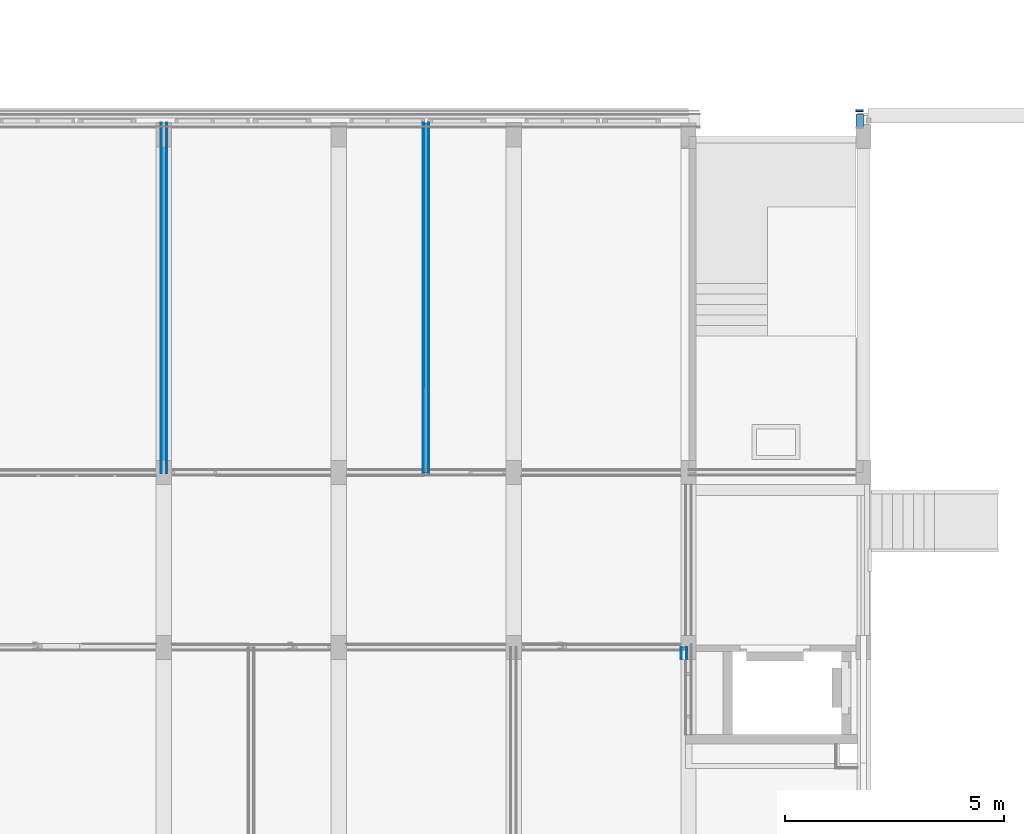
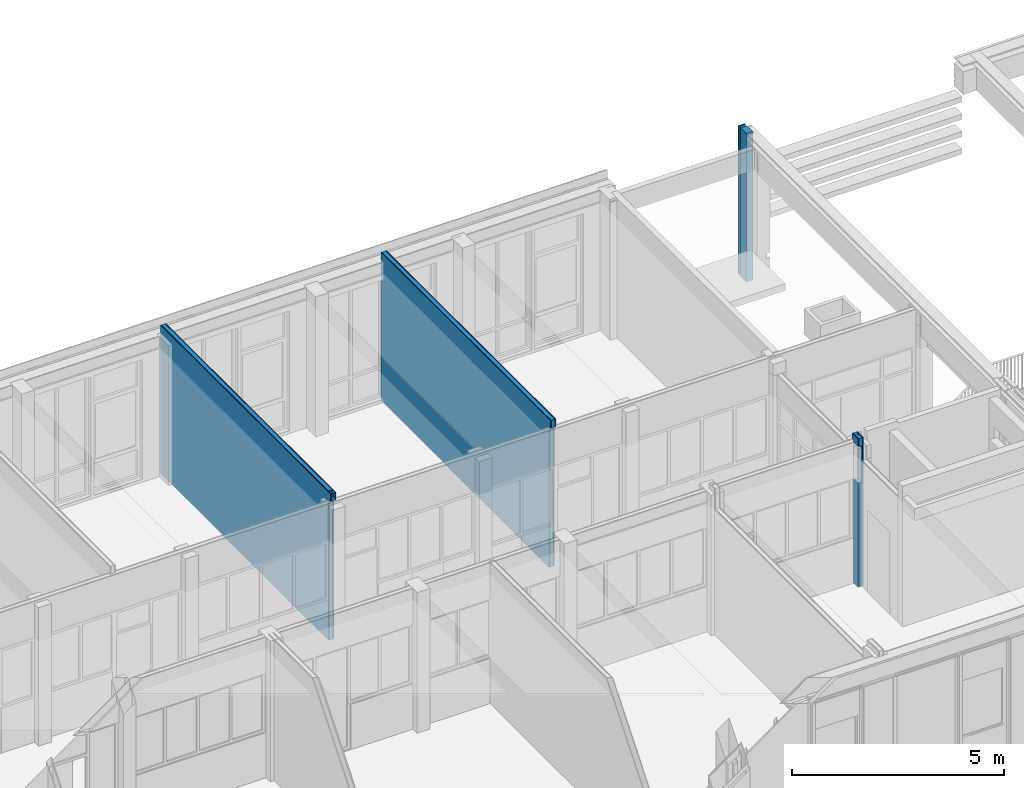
# One storey, part 26 of 54: 17 building element parts, 4 elements without a shape of their own.
"""IFC2X3 building model written with IfcOpenShell, lengths in millimetres."""

from ifc_helpers import new_model, entity, si_unit, converted_unit, derived_unit, money_unit, direction, frame, origin_with_axes, place, context, subcontext, project, spatial, faceted_brep, material, type_object, element, aggregate, save


model = new_model("IFC2X3")

# Units and contexts
model_context = context("Model", 3, precision=0.01, world=origin_with_axes(), true_north=direction((0.0, 1.0)))
body_context = subcontext(model_context, "Body", "Model", "MODEL_VIEW")
ifc_project = project(units=[si_unit("LENGTHUNIT", "METRE", prefix="MILLI"), si_unit("AREAUNIT", "SQUARE_METRE"), si_unit("VOLUMEUNIT", "CUBIC_METRE"), converted_unit("PLANEANGLEUNIT", "DEGREE", entity("IfcPlaneAngleMeasure", 0.0174532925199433), si_unit("PLANEANGLEUNIT", "RADIAN"), dimensions=[0, 0, 0, 0, 0, 0, 0]), money_unit("EUR"), converted_unit("TIMEUNIT", "Year", entity("IfcTimeMeasure", 31557600.0), si_unit("TIMEUNIT", "SECOND"), dimensions=[0, 0, 1, 0, 0, 0, 0]), si_unit("MASSUNIT", "GRAM", prefix="KILO"), si_unit("THERMODYNAMICTEMPERATUREUNIT", "DEGREE_CELSIUS"), si_unit("LUMINOUSINTENSITYUNIT", "LUMEN"), si_unit("ENERGYUNIT", "JOULE", prefix="MEGA"), derived_unit("THERMALCONDUCTANCEUNIT", [(si_unit("POWERUNIT", "WATT"), 1), (si_unit("LENGTHUNIT", "METRE"), -1), (si_unit("THERMODYNAMICTEMPERATUREUNIT", "KELVIN"), -1)]), derived_unit("SPECIFICHEATCAPACITYUNIT", [(si_unit("ENERGYUNIT", "JOULE"), 1), (si_unit("MASSUNIT", "GRAM", prefix="KILO"), -1), (si_unit("THERMODYNAMICTEMPERATUREUNIT", "KELVIN"), -1)]), derived_unit("MASSDENSITYUNIT", [(si_unit("MASSUNIT", "GRAM", prefix="KILO"), 1), (si_unit("VOLUMEUNIT", "CUBIC_METRE"), -1)])], contexts=[model_context])

# Site, building, storey
site_placement = place(None, origin_with_axes())
site = spatial("IfcSite", under=ifc_project, at=site_placement, Name="<site naam>", CompositionType="ELEMENT")
building_placement = place(site_placement, origin_with_axes())
building = spatial("IfcBuilding", under=site, at=building_placement, Name="<Naam gebouw>", CompositionType="ELEMENT")
storey_placement = place(building_placement, frame((0.0, 0.0, 8500.0), z_axis=(0.0, 0.0, 1.0), x_axis=(1.0, 0.0, 0.0)))
storey = spatial("IfcBuildingStorey", under=building, at=storey_placement, Name="02 2e verdieping", CompositionType="ELEMENT", Elevation=8500.0)

# Wall, building element parts
wall_type_1 = type_object("IfcWallType", Name="MS-01 GF 150 ECO DGS/2.100.2.A 150", PredefinedType="NOTDEFINED")
wall_1_placement = place(storey_placement, frame((35999.99713003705, 20000.00000000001, 0.0), z_axis=(0.0, 0.0, 1.0), x_axis=(5.218114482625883e-06, -0.9999999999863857, 0.0)))
wall_1 = element("IfcWall", 1, at=wall_1_placement, inside=storey, type_object=wall_type_1, Name="22_Binnenwand_MS-01")
ifc_material_1 = material(Name="gipsplaat")
building_element_part_1_placement = place(wall_1_placement, origin_with_axes())
building_element_part_1 = element("IfcBuildingElementPart", 2, at=building_element_part_1_placement, material=ifc_material_1, Name="gipsplaat", context=body_context, shape_type="Brep", body=[
    faceted_brep([(7884.500326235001, 62.5, 4270.0), (7884.500391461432, 75.00000000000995, 4270.0), (0.0, 75.00000000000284, 4270.0), (0.0, 62.5, 4270.0), (7884.500391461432, 75.00000000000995, 4135.38538922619), (7884.500326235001, 62.5, 4135.38538922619), (7900.50039146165, 75.00000000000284, 4135.38538922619), (7900.50039146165, 75.00000000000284, 4270.0), (8009.999969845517, 75.00000000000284, 4270.0), (8009.999969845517, 75.00000000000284, 4049.999999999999), (7925.000391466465, 75.00000000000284, 4049.999999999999), (7925.000391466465, 75.00000000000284, 0.0), (0.0, 75.00000000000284, 0.0), (0.0, 62.5, 0.0), (7925.000326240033, 62.49999999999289, 0.0), (7925.000326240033, 62.49999999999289, 4049.999999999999), (8009.999969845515, 62.49999999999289, 4049.999999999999), (8009.999969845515, 62.49999999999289, 4270.0), (7900.500326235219, 62.49999999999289, 4270.0), (7900.500326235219, 62.49999999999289, 4135.38538922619)], [[[0, 1, 2, 3]], [[4, 1, 0, 5]], [[6, 7, 8, 9, 10, 11, 12, 2, 1, 4]], [[12, 13, 3, 2]], [[5, 0, 3, 13, 14, 15, 16, 17, 18, 19]], [[6, 4, 5, 19]], [[18, 7, 6, 19]], [[7, 18, 17, 8]], [[17, 16, 9, 8]], [[15, 10, 9, 16]], [[14, 11, 10, 15]], [[12, 11, 14, 13]]]),
])
ifc_material_2 = material(Name="isolatie_steenwol LSW")
building_element_part_2_placement = place(wall_1_placement, origin_with_axes())
building_element_part_2 = element("IfcBuildingElementPart", 3, at=building_element_part_2_placement, material=ifc_material_2, Name="isolatie_steenwol LSW", context=body_context, shape_type="Brep", body=[
    faceted_brep([(7884.499739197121, -49.99999999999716, 4270.0), (7884.500261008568, 50.00000000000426, 4270.0), (0.0, 50.00000000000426, 4270.0), (0.0, -50.00000000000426, 4270.0), (7884.500261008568, 50.00000000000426, 4135.38538922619), (7884.499739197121, -49.99999999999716, 4135.38538922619), (7900.500261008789, 49.99999999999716, 4135.38538922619), (7900.500261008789, 49.99999999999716, 4270.0), (8009.999969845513, 49.99999999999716, 4270.0), (8009.999969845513, 49.99999999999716, 4049.999999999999), (7925.000261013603, 49.99999999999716, 4049.999999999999), (7925.000261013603, 49.99999999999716, 0.0), (0.0, 50.00000000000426, 0.0), (0.0, -50.00000000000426, 0.0), (7924.999739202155, -50.00000000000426, 0.0), (7924.999739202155, -50.00000000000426, 4049.999999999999), (8009.999969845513, -50.00000000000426, 4049.999999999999), (8009.999969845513, -50.00000000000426, 4270.0), (7900.499739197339, -50.00000000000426, 4270.0), (7900.499739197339, -50.00000000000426, 4135.38538922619), (7900.499975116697, -4.788390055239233, 4135.38538922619), (8009.999969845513, -4.788961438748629, 4135.38538922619), (8009.999969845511, 4.711038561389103, 4135.38538922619), (7900.500024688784, 4.711609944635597, 4135.38538922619), (7900.500024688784, 4.711609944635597, 4270.0), (8009.999969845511, 4.711038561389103, 4270.0), (8009.999969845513, -4.788961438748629, 4270.0), (7900.499975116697, -4.788390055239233, 4270.0)], [[[0, 1, 2, 3]], [[4, 1, 0, 5]], [[6, 7, 8, 9, 10, 11, 12, 2, 1, 4]], [[12, 13, 3, 2]], [[5, 0, 3, 13, 14, 15, 16, 17, 18, 19]], [[6, 4, 5, 19, 20, 21, 22, 23]], [[24, 7, 6, 23]], [[24, 25, 8, 7]], [[21, 26, 17, 16, 9, 8, 25, 22]], [[15, 10, 9, 16]], [[14, 11, 10, 15]], [[12, 11, 14, 13]], [[27, 18, 17, 26]], [[18, 27, 20, 19]], [[27, 26, 21, 20]], [[25, 24, 23, 22]]]),
])
building_element_part_3_placement = place(wall_1_placement, origin_with_axes())
building_element_part_3 = element("IfcBuildingElementPart", 4, at=building_element_part_3_placement, material=ifc_material_1, Name="gipsplaat", context=body_context, shape_type="Brep", body=[
    faceted_brep([(7884.500261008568, 50.00000000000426, 4270.0), (7884.500326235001, 62.5, 4270.0), (0.0, 62.5, 4270.0), (0.0, 50.00000000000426, 4270.0), (7884.500326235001, 62.5, 4135.38538922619), (7884.500261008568, 50.00000000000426, 4135.38538922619), (7900.500326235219, 62.49999999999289, 4135.38538922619), (7900.500326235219, 62.49999999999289, 4270.0), (8009.999969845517, 62.49999999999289, 4270.0), (8009.999969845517, 62.49999999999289, 4049.999999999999), (7925.000326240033, 62.49999999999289, 4049.999999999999), (7925.000326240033, 62.49999999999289, 0.0), (0.0, 62.5, 0.0), (0.0, 50.00000000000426, 0.0), (7925.000261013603, 49.99999999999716, 0.0), (7925.000261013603, 49.99999999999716, 4049.999999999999), (8009.999969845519, 49.99999999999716, 4049.999999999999), (8009.999969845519, 49.99999999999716, 4270.0), (7900.500261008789, 49.99999999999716, 4270.0), (7900.500261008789, 49.99999999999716, 4135.38538922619)], [[[0, 1, 2, 3]], [[4, 1, 0, 5]], [[6, 7, 8, 9, 10, 11, 12, 2, 1, 4]], [[12, 13, 3, 2]], [[5, 0, 3, 13, 14, 15, 16, 17, 18, 19]], [[6, 4, 5, 19]], [[18, 7, 6, 19]], [[7, 18, 17, 8]], [[17, 16, 9, 8]], [[15, 10, 9, 16]], [[14, 11, 10, 15]], [[12, 11, 14, 13]]]),
])
building_element_part_4_placement = place(wall_1_placement, origin_with_axes())
building_element_part_4 = element("IfcBuildingElementPart", 5, at=building_element_part_4_placement, material=ifc_material_1, Name="gipsplaat", context=body_context, shape_type="Brep", body=[
    faceted_brep([(7884.49967397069, -62.49999999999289, 4270.0), (7884.499739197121, -49.99999999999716, 4270.0), (0.0, -50.00000000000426, 4270.0), (0.0, -62.5, 4270.0), (7884.499739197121, -49.99999999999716, 4135.38538922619), (7884.49967397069, -62.49999999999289, 4135.38538922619), (7900.499739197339, -50.00000000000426, 4135.38538922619), (7900.499739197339, -50.00000000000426, 4270.0), (8009.999969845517, -50.00000000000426, 4270.0), (8009.999969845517, -50.00000000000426, 4049.999999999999), (7924.999739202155, -50.00000000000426, 4049.999999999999), (7924.999739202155, -50.00000000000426, 0.0), (0.0, -50.00000000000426, 0.0), (0.0, -62.5, 0.0), (7924.999673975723, -62.5, 0.0), (7924.999673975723, -62.5, 4049.999999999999), (8009.999969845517, -62.5, 4049.999999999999), (8009.999969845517, -62.5, 4270.0), (7900.499673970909, -62.5, 4270.0), (7900.499673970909, -62.5, 4135.38538922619)], [[[0, 1, 2, 3]], [[4, 1, 0, 5]], [[6, 7, 8, 9, 10, 11, 12, 2, 1, 4]], [[12, 13, 3, 2]], [[5, 0, 3, 13, 14, 15, 16, 17, 18, 19]], [[6, 4, 5, 19]], [[18, 7, 6, 19]], [[7, 18, 17, 8]], [[17, 16, 9, 8]], [[15, 10, 9, 16]], [[14, 11, 10, 15]], [[12, 11, 14, 13]]]),
])

wall_2_placement = place(storey_placement, frame((41999.99786433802, 20000.00000000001, 0.0), z_axis=(0.0, 0.0, 1.0), x_axis=(-2.346881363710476e-05, -0.9999999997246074, 0.0)))
wall_2 = element("IfcWall", 6, at=wall_2_placement, inside=storey, type_object=wall_type_1, Name="22_Binnenwand_MS-01")
building_element_part_5_placement = place(wall_2_placement, origin_with_axes())
building_element_part_5 = element("IfcBuildingElementPart", 7, at=building_element_part_5_placement, material=ifc_material_1, Name="gipsplaat", context=body_context, shape_type="Brep", body=[
    faceted_brep([(74.99827078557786, 75.00000000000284, 22.99999999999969), (74.99827078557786, 75.00000000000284, 19.99999999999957), (7924.998242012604, 75.00037674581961, 19.99999999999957), (7924.998242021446, 75.00000000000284, 0.0), (0.0, 75.00000000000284, 0.0), (0.0, 75.00000000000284, 4270.0), (8000.000002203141, 75.00000000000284, 4270.0), (8000.000002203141, 75.00000000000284, 4049.999999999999), (7924.998242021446, 75.00000000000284, 4049.999999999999), (7924.998242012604, 75.00037674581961, 22.99999999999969), (74.99823614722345, 75.00000000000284, 3700.000000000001), (7907.988987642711, 74.99996057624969, 3700.000000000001), (7907.988987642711, 74.99996057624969, 3740.0), (74.99823614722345, 75.00000000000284, 3740.0), (74.99827510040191, 74.81614655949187, 19.99999999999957), (74.99827510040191, 74.81614655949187, 22.99999999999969), (7924.998535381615, 62.5, 4049.999999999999), (7924.998535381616, 62.49999999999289, 0.0), (0.0, 62.5, 0.0), (0.0, 62.5, 4270.0), (8000.000002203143, 62.5, 4270.0), (8000.000002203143, 62.5, 4049.999999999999), (74.99824044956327, 74.81612957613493, 3700.000000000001), (74.99824044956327, 74.81612957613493, 3740.0)], [[[0, 1, 2, 3, 4, 5, 6, 7, 8, 9], [10, 11, 12, 13]], [[14, 1, 0, 15]], [[14, 2, 1]], [[3, 2, 9, 8, 16, 17]], [[18, 4, 3, 17]], [[19, 5, 4, 18]], [[6, 5, 19, 20]], [[6, 20, 21, 7]], [[7, 21, 16, 8]], [[15, 0, 9]], [[22, 11, 10]], [[11, 22, 23, 12]], [[23, 13, 12]], [[22, 10, 13, 23]], [[15, 9, 2, 14]], [[18, 17, 16, 21, 20, 19]]]),
])
building_element_part_6_placement = place(wall_2_placement, origin_with_axes())
building_element_part_6 = element("IfcBuildingElementPart", 8, at=building_element_part_6_placement, material=ifc_material_2, Name="isolatie_steenwol LSW", context=body_context, shape_type="Brep", body=[
    faceted_brep([(7924.998828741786, 50.00000000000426, 4049.999999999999), (7924.998828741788, 50.00000000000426, 0.0), (0.0, 49.99999999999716, 0.0), (0.0, 50.00000000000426, 4270.0), (8000.000002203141, 50.00000000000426, 4270.0), (8000.000002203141, 50.00000000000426, 4049.999999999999), (7925.00117562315, -49.99999999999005, 4049.999999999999), (7925.001175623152, -49.99999999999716, 0.0), (0.0, -49.99999999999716, 0.0), (0.0, -49.99999999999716, 4270.0), (8000.000002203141, -49.99999999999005, 4270.0), (8000.000002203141, -49.99999999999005, 4049.999999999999)], [[[0, 1, 2, 3, 4, 5]], [[6, 7, 1, 0]], [[8, 2, 1, 7]], [[9, 3, 2, 8]], [[4, 3, 9, 10]], [[4, 10, 11, 5]], [[5, 11, 6, 0]], [[8, 7, 6, 11, 10, 9]]]),
])
building_element_part_7_placement = place(wall_2_placement, origin_with_axes())
building_element_part_7 = element("IfcBuildingElementPart", 9, at=building_element_part_7_placement, material=ifc_material_1, Name="gipsplaat", context=body_context, shape_type="Brep", body=[
    faceted_brep([(7925.00117562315, -49.99999999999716, 4049.999999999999), (7925.001175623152, -49.99999999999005, 0.0), (0.0, -49.99999999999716, 0.0), (0.0, -49.99999999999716, 4270.0), (8000.000002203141, -49.99999999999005, 4270.0), (8000.000002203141, -49.99999999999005, 4049.999999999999), (7925.001468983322, -62.49999999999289, 4049.999999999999), (7925.001468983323, -62.5, 0.0), (0.0, -62.5, 0.0), (0.0, -62.5, 4270.0), (8000.000002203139, -62.49999999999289, 4270.0), (8000.000002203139, -62.49999999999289, 4049.999999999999)], [[[0, 1, 2, 3, 4, 5]], [[6, 7, 1, 0]], [[8, 2, 1, 7]], [[9, 3, 2, 8]], [[4, 3, 9, 10]], [[4, 10, 11, 5]], [[5, 11, 6, 0]], [[8, 7, 6, 11, 10, 9]]]),
])

# Building element part
building_element_part_8_placement = place(wall_1_placement, origin_with_axes())
building_element_part_8 = element("IfcBuildingElementPart", 10, at=building_element_part_8_placement, material=ifc_material_1, Name="gipsplaat", context=body_context, shape_type="Brep", body=[
    faceted_brep([(7884.499608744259, -74.99999999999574, 4270.0), (7884.49967397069, -62.49999999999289, 4270.0), (0.0, -62.5, 4270.0), (0.0, -75.00000000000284, 4270.0), (7884.49967397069, -62.49999999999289, 4135.38538922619), (7884.499608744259, -74.99999999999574, 4135.38538922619), (7900.499673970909, -62.5, 4135.38538922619), (7900.499673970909, -62.5, 4270.0), (8009.999969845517, -62.5, 4270.0), (8009.999969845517, -62.5, 4049.999999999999), (7924.999673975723, -62.5, 4049.999999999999), (7924.999673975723, -62.5, 0.0), (0.0, -62.5, 0.0), (0.0, -75.00000000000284, 0.0), (7924.999608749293, -75.00000000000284, 0.0), (7924.999608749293, -75.00000000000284, 4049.999999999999), (8009.999969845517, -75.00000000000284, 4049.999999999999), (8009.999969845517, -75.00000000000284, 4270.0), (7900.499608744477, -75.00000000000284, 4270.0), (7900.499608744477, -75.00000000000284, 4135.38538922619)], [[[0, 1, 2, 3]], [[4, 1, 0, 5]], [[6, 7, 8, 9, 10, 11, 12, 2, 1, 4]], [[12, 13, 3, 2]], [[5, 0, 3, 13, 14, 15, 16, 17, 18, 19]], [[6, 4, 5, 19]], [[18, 7, 6, 19]], [[7, 18, 17, 8]], [[17, 16, 9, 8]], [[15, 10, 9, 16]], [[14, 11, 10, 15]], [[12, 11, 14, 13]]]),
])

aggregate(wall_1, [building_element_part_1, building_element_part_2, building_element_part_3, building_element_part_4, building_element_part_8])

building_element_part_9_placement = place(wall_2_placement, origin_with_axes())
building_element_part_9 = element("IfcBuildingElementPart", 11, at=building_element_part_9_placement, material=ifc_material_1, Name="gipsplaat", context=body_context, shape_type="Brep", body=[
    faceted_brep([(7924.998535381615, 62.5, 4049.999999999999), (7924.998535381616, 62.5, 0.0), (0.0, 62.5, 0.0), (0.0, 62.5, 4270.0), (8000.000002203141, 62.5, 4270.0), (8000.000002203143, 62.5, 4049.999999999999), (7924.998828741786, 50.00000000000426, 4049.999999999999), (7924.998828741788, 49.99999999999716, 0.0), (0.0, 49.99999999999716, 0.0), (0.0, 50.00000000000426, 4270.0), (8000.000002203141, 50.00000000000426, 4270.0), (8000.000002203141, 50.00000000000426, 4049.999999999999)], [[[0, 1, 2, 3, 4, 5]], [[6, 7, 1, 0]], [[8, 2, 1, 7]], [[9, 3, 2, 8]], [[4, 3, 9, 10]], [[4, 10, 11, 5]], [[5, 11, 6, 0]], [[8, 7, 6, 11, 10, 9]]]),
])

building_element_part_10_placement = place(wall_2_placement, origin_with_axes())
building_element_part_10 = element("IfcBuildingElementPart", 12, at=building_element_part_10_placement, material=ifc_material_1, Name="gipsplaat", context=body_context, shape_type="Brep", body=[
    faceted_brep([(7925.001762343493, -74.99999999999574, 0.0), (7925.001762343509, -74.99999999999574, 19.99999999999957), (75.00179110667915, -74.99995975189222, 19.99999999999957), (75.00179110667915, -74.99995975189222, 22.99999999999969), (7925.001762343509, -74.99999999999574, 22.99999999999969), (7925.001762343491, -74.99999999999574, 4049.999999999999), (8000.000002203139, -74.99999999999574, 4049.999999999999), (8000.000002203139, -74.99999999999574, 4270.0), (0.0, -75.00000000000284, 4270.0), (0.0, -75.00000000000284, 0.0), (7907.992474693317, -74.99999999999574, 3740.0), (7907.992474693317, -74.99999999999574, 3700.000000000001), (75.00173263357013, -75.00000852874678, 3700.000000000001), (75.00173263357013, -75.00000852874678, 3740.0), (7925.001758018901, -74.81572956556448, 22.99999999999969), (7925.001758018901, -74.81572956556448, 19.99999999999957), (7925.001468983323, -62.49999999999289, 0.0), (7925.001468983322, -62.49999999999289, 4049.999999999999), (8000.000002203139, -62.49999999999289, 4049.999999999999), (8000.000002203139, -62.49999999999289, 4270.0), (0.0, -62.5, 4270.0), (0.0, -62.5, 0.0), (7907.992470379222, -74.81617752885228, 3700.000000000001), (7907.992470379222, -74.81617752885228, 3740.0)], [[[0, 1, 2, 3, 4, 5, 6, 7, 8, 9], [10, 11, 12, 13]], [[14, 15, 1, 0, 16, 17, 5, 4]], [[2, 1, 15]], [[2, 15, 14, 3]], [[14, 4, 3]], [[18, 6, 5, 17]], [[19, 7, 6, 18]], [[19, 20, 8, 7]], [[8, 20, 21, 9]], [[9, 21, 16, 0]], [[22, 11, 10, 23]], [[22, 12, 11]], [[12, 22, 23, 13]], [[23, 10, 13]], [[18, 17, 16, 21, 20, 19]]]),
])

aggregate(wall_2, [building_element_part_5, building_element_part_6, building_element_part_7, building_element_part_9, building_element_part_10])

# Wall, building element parts
wall_3_placement = place(storey_placement, frame((47825.00000000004, 7725.000000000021, 0.0), z_axis=(0.0, 0.0, 1.0), x_axis=(-3.311397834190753e-05, 0.9999999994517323, 0.0)))
wall_3 = element("IfcWall", 13, at=wall_3_placement, inside=storey, type_object=wall_type_1, Name="22_Binnenwand_MS-01")
building_element_part_11_placement = place(wall_3_placement, origin_with_axes())
building_element_part_11 = element("IfcBuildingElementPart", 14, at=building_element_part_11_placement, material=ifc_material_1, Name="gipsplaat", context=body_context, shape_type="Brep", body=[
    faceted_brep([(200.0000001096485, 0.0, 0.0), (200.0000166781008, -0.006622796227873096, 3000.0), (199.9996029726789, -12.50000000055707, 3000.0), (199.9995861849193, -12.50000000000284, 0.0), (0.0, 0.0, 3.000000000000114), (1.593093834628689e-05, -5.329070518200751e-10, 3000.0), (196.6154658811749, 0.0, 0.0), (196.6154658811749, 0.0, 3.000000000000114), (-0.0003979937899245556, -12.49999998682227, 3000.0), (0.0, -12.50000000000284, 3.000000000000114), (196.6150519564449, -12.49999999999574, 3.000000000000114), (196.6150519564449, -12.49999999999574, 0.0)], [[[0, 1, 2, 3]], [[4, 5, 1, 0, 6, 7]], [[5, 8, 2, 1]], [[3, 2, 8, 9, 10, 11]], [[0, 3, 11, 6]], [[9, 8, 5, 4]], [[7, 6, 11, 10]], [[4, 7, 10, 9]]]),
    faceted_brep([(-0.0003979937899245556, -12.49999998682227, 4050.000000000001), (199.9996029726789, -12.50000000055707, 4050.000000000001), (199.9995861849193, -12.50000000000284, 4119.999999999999), (274.9999987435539, -12.50000000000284, 4119.999999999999), (274.9999987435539, -12.50000000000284, 4270.0), (0.0, -12.50000000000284, 4270.0), (200.0000166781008, -0.006622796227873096, 4050.000000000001), (1.593093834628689e-05, -5.329070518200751e-10, 4050.000000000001), (200.0000001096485, 0.0, 4119.999999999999), (274.999998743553, 0.0, 4119.999999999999), (274.999998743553, 0.0, 4270.0), (0.0, 0.0, 4270.0)], [[[0, 1, 2, 3, 4, 5]], [[6, 1, 0, 7]], [[1, 6, 8, 2]], [[2, 8, 9, 3]], [[3, 9, 10, 4]], [[5, 4, 10, 11]], [[7, 0, 5, 11]], [[6, 7, 11, 10, 9, 8]]]),
])
building_element_part_12_placement = place(wall_3_placement, origin_with_axes())
building_element_part_12 = element("IfcBuildingElementPart", 15, at=building_element_part_12_placement, material=ifc_material_1, Name="gipsplaat", context=body_context, shape_type="Brep", body=[
    faceted_brep([(199.9996029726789, -12.50000000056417, 3000.0), (199.9991890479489, -25.00000000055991, 3000.0), (199.9991722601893, -24.99999999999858, 0.0), (199.9995861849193, -12.50000000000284, 0.0), (-0.0008119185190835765, -24.99999997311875, 3000.0), (-0.0003979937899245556, -12.49999998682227, 3000.0), (0.0, -25.00000000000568, 3.000000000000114), (196.6146380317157, -24.99999999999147, 3.000000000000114), (196.6146380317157, -24.99999999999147, 0.0), (196.6150519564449, -12.49999999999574, 0.0), (196.6150519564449, -12.50000000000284, 3.000000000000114), (0.0, -12.50000000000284, 3.000000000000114)], [[[0, 1, 2, 3]], [[4, 1, 0, 5]], [[1, 4, 6, 7, 8, 2]], [[2, 8, 9, 3]], [[5, 0, 3, 9, 10, 11]], [[4, 5, 11, 6]], [[10, 7, 6, 11]], [[9, 8, 7, 10]]]),
    faceted_brep([(-0.0008119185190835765, -24.99999997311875, 4050.000000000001), (199.9991890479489, -25.00000000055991, 4050.000000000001), (199.9991722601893, -25.00000000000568, 4119.999999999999), (274.9999987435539, -24.99999999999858, 4119.999999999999), (274.9999987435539, -24.99999999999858, 4270.0), (0.0, -25.00000000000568, 4270.0), (199.9996029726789, -12.50000000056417, 4050.000000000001), (-0.0003979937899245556, -12.49999998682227, 4050.000000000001), (199.9995861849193, -12.50000000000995, 4119.999999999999), (274.9999987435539, -12.50000000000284, 4119.999999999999), (274.9999987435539, -12.50000000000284, 4270.0), (0.0, -12.50000000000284, 4270.0)], [[[0, 1, 2, 3, 4, 5]], [[6, 1, 0, 7]], [[1, 6, 8, 2]], [[2, 8, 9, 3]], [[3, 9, 10, 4]], [[5, 4, 10, 11]], [[7, 0, 5, 11]], [[6, 7, 11, 10, 9, 8]]]),
])
building_element_part_13_placement = place(wall_3_placement, origin_with_axes())
building_element_part_13 = element("IfcBuildingElementPart", 16, at=building_element_part_13_placement, material=ifc_material_2, Name="isolatie_steenwol LSW", context=body_context, shape_type="Brep", body=[
    faceted_brep([(164.9516975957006, -65.00546224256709, 4270.0), (180.9516975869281, -65.00599206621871, 4270.0), (180.9497109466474, -125.0, 4270.0), (274.9999987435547, -125.0, 4270.0), (274.9999987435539, -24.99999999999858, 4270.0), (0.0, -25.00000000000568, 4270.0), (0.0, -125.0000000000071, 4270.0), (164.9497109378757, -125.0000000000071, 4270.0), (164.9516975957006, -65.00546224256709, 4135.38538922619), (180.9516975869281, -65.00599206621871, 4135.38538922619), (180.9497109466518, -124.9999998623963, 4135.38538922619), (164.9497109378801, -124.9999998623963, 4135.38538922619), (-0.004155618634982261, -124.9999998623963, 3.000000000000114), (196.6113266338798, -124.9999999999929, 3.000000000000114), (196.6113266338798, -124.9999999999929, 0.0), (199.9958608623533, -125.0, 0.0), (199.9958608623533, -125.0000000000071, 4119.999999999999), (274.9999987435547, -125.0, 4119.999999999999), (274.9999987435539, -24.99999999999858, 4119.999999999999), (199.9991722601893, -25.00000000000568, 4119.999999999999), (199.9991890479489, -25.00000000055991, 4050.000000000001), (-0.0008119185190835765, -24.99999997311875, 4050.000000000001), (-0.003295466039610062, -99.99997409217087, 4050.000000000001), (-0.003295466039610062, -99.99997409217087, 3000.0), (-0.0008119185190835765, -24.99999997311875, 3000.0), (0.0, -25.00000000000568, 3.000000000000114), (-0.003327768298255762, -99.99997335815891, 3.000000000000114), (196.6146380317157, -24.99999999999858, 3.000000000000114), (196.6146380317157, -24.99999999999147, 0.0), (199.9991722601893, -24.99999999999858, 0.0), (199.9991890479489, -25.00000000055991, 3000.0), (199.9967052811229, -100.0065968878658, 3000.0), (199.9967052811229, -100.0065968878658, 4050.000000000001)], [[[0, 1, 2, 3, 4, 5, 6, 7]], [[1, 0, 8, 9]], [[10, 2, 1, 9]], [[11, 7, 6, 12, 13, 14, 15, 16, 17, 3, 2, 10]], [[3, 17, 18, 4]], [[19, 20, 21, 5, 4, 18]], [[22, 23, 24, 25, 26, 12, 6, 5, 21]], [[0, 7, 11, 8]], [[11, 10, 9, 8]], [[25, 27, 13, 12, 26]], [[27, 28, 14, 13]], [[29, 15, 14, 28]], [[29, 30, 31, 32, 20, 19, 16, 15]], [[17, 16, 19, 18]], [[21, 20, 32, 22]], [[22, 32, 31, 23]], [[23, 31, 30, 24]], [[25, 24, 30, 29, 28, 27]]]),
])
building_element_part_14_placement = place(wall_3_placement, origin_with_axes())
building_element_part_14 = element("IfcBuildingElementPart", 17, at=building_element_part_14_placement, material=ifc_material_1, Name="gipsplaat", context=body_context, shape_type="Brep", body=[
    faceted_brep([(180.9497109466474, -125.0, 4270.0), (180.9492970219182, -137.5000000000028, 4270.0), (274.9999987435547, -137.5000000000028, 4270.0), (274.9999987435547, -125.0, 4270.0), (180.9492970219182, -137.4999999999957, 4135.38538922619), (180.9497109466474, -125.0, 4135.38538922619), (164.9492970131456, -137.4999999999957, 4135.38538922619), (164.9492970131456, -137.5000000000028, 4270.0), (0.0, -137.5000000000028, 4270.0), (-0.004569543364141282, -137.4999998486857, 3.000000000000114), (196.6109127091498, -137.4999999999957, 3.000000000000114), (196.6109127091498, -137.4999999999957, 0.0), (199.9954469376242, -137.5000000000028, 0.0), (199.9954469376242, -137.5000000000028, 4119.999999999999), (274.9999987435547, -137.4999999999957, 4119.999999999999), (274.9999987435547, -125.0, 4119.999999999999), (199.9958608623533, -125.0000000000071, 4119.999999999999), (199.9958608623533, -125.0, 0.0), (196.6113266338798, -124.9999999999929, 0.0), (196.6113266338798, -125.0, 3.000000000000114), (-0.004155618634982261, -124.9999998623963, 3.000000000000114), (0.0, -125.0000000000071, 4270.0), (164.9497109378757, -125.0000000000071, 4270.0), (164.9497109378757, -125.0000000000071, 4135.38538922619)], [[[0, 1, 2, 3]], [[4, 1, 0, 5]], [[6, 7, 8, 9, 10, 11, 12, 13, 14, 2, 1, 4]], [[14, 15, 3, 2]], [[5, 0, 3, 15, 16, 17, 18, 19, 20, 21, 22, 23]], [[6, 4, 5, 23]], [[22, 7, 6, 23]], [[7, 22, 21, 8]], [[21, 20, 9, 8]], [[19, 10, 9, 20]], [[18, 11, 10, 19]], [[12, 11, 18, 17]], [[13, 12, 17, 16]], [[13, 16, 15, 14]]]),
])
building_element_part_15_placement = place(wall_3_placement, origin_with_axes())
building_element_part_15 = element("IfcBuildingElementPart", 18, at=building_element_part_15_placement, material=ifc_material_1, Name="gipsplaat", context=body_context, shape_type="Brep", body=[
    faceted_brep([(180.9492970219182, -137.5000000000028, 4270.0), (180.9488830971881, -150.0000000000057, 4270.0), (274.999998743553, -149.9999999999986, 4270.0), (274.9999987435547, -137.5000000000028, 4270.0), (180.9488830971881, -149.9999999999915, 4135.38538922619), (180.9492970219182, -137.4999999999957, 4135.38538922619), (164.9488830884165, -149.9999999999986, 4135.38538922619), (164.9488830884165, -150.0000000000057, 4270.0), (0.0, -150.0000000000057, 4270.0), (-0.004983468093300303, -149.9999998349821, 3.000000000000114), (196.6104987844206, -149.9999999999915, 3.000000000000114), (196.6104987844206, -149.9999999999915, 0.0), (199.995033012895, -149.9999999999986, 0.0), (199.995033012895, -150.0000000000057, 4119.999999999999), (274.999998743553, -149.9999999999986, 4119.999999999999), (274.9999987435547, -137.4999999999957, 4119.999999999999), (199.9954469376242, -137.5000000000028, 4119.999999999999), (199.9954469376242, -137.5000000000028, 0.0), (196.6109127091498, -137.4999999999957, 0.0), (196.6109127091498, -137.4999999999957, 3.000000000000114), (-0.004569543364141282, -137.4999998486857, 3.000000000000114), (0.0, -137.5000000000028, 4270.0), (164.9492970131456, -137.5000000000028, 4270.0), (164.9492970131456, -137.4999999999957, 4135.38538922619)], [[[0, 1, 2, 3]], [[4, 1, 0, 5]], [[6, 7, 8, 9, 10, 11, 12, 13, 14, 2, 1, 4]], [[14, 15, 3, 2]], [[5, 0, 3, 15, 16, 17, 18, 19, 20, 21, 22, 23]], [[6, 4, 5, 23]], [[22, 7, 6, 23]], [[7, 22, 21, 8]], [[21, 20, 9, 8]], [[19, 10, 9, 20]], [[18, 11, 10, 19]], [[12, 11, 18, 17]], [[13, 12, 17, 16]], [[13, 16, 15, 14]]]),
])
aggregate(wall_3, [building_element_part_11, building_element_part_12, building_element_part_13, building_element_part_14, building_element_part_15])

wall_type_2 = type_object("IfcWallType", Name="HSB_285 gevelbeplating 420", PredefinedType="NOTDEFINED")
wall_4_placement = place(storey_placement, frame((51825.00000000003, 20297.99999999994, 0.0), z_axis=(0.0, 0.0, 1.0), x_axis=(1.0, 0.0, 0.0)))
wall_4 = element("IfcWall", 19, at=wall_4_placement, inside=storey, type_object=wall_type_2, Name="21_Binnenwand_HSB_285")
ifc_material_3 = material(Name="metaal - Aluminium gevelplaat")
building_element_part_16_placement = place(wall_4_placement, origin_with_axes())
building_element_part_16 = element("IfcBuildingElementPart", 20, at=building_element_part_16_placement, material=ifc_material_3, Name="metaal - Aluminium gevelplaat", context=body_context, shape_type="Brep", body=[
    faceted_brep([(174.999474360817, -39.99999999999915, 4270.0), (174.999474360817, 0.0, 4270.0), (0.0, 0.0, 4270.0), (0.0, -39.99999999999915, 4270.0), (174.999474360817, -39.99999999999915, 0.0), (174.999474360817, 0.0, 0.0), (0.0, 0.0, 0.0), (0.0, -39.99999999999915, 0.0)], [[[0, 1, 2, 3]], [[0, 4, 5, 1]], [[1, 5, 6, 2]], [[3, 2, 6, 7]], [[4, 0, 3, 7]], [[5, 4, 7, 6]]]),
])
ifc_material_4 = material(Name="isolatie_houtvezel")
building_element_part_17_placement = place(wall_4_placement, origin_with_axes())
building_element_part_17 = element("IfcBuildingElementPart", 21, at=building_element_part_17_placement, material=ifc_material_4, Name="isolatie_houtvezel", context=body_context, shape_type="Brep", body=[
    faceted_brep([(174.999474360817, -391.9999999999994, 4270.0), (174.999474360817, -106.9999999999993, 4270.0), (0.0, -106.9999999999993, 4270.0), (0.0, -391.9999999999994, 4270.0), (174.999474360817, -391.9999999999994, 0.0), (174.999474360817, -106.9999999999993, 0.0), (0.0, -106.9999999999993, 0.0), (0.0, -391.9999999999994, 0.0)], [[[0, 1, 2, 3]], [[0, 4, 5, 1]], [[1, 5, 6, 2]], [[3, 2, 6, 7]], [[4, 0, 3, 7]], [[5, 4, 7, 6]]]),
])
aggregate(wall_4, [building_element_part_16, building_element_part_17])

save(model, "model.ifc")
